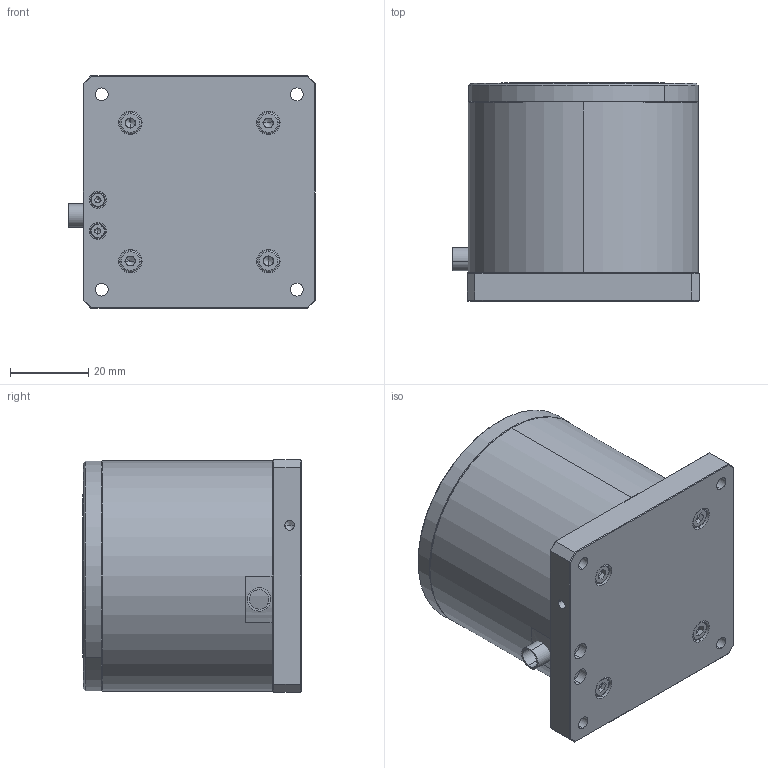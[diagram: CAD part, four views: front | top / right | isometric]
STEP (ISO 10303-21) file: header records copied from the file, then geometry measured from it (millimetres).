
FILE_DESCRIPTION (( 'STEP AP203' ), '1' );
FILE_NAME ('P34.T2S-B2蚾饜极.STEP', '2022-01-18T01:18:56', ( '' ), ( '' ), 'SwSTEP 2.0', 'SolidWorks 2016', '' );
FILE_SCHEMA (( 'CONFIG_CONTROL_DESIGN' ));
Length unit declared in the file: millimetre
Products named in the file (1): P34.T2S-B2蚾饜极
Bounding box: 63.25 x 56 x 59.5 mm (x, y, z)
Volume: 157884.1 mm3; surface area: 32345.1 mm2
Topology: 15 solids, 15 shells, 418 faces, 948 edges, 569 vertices
Faces by surface type: plane 206, cylinder 133, cone 59, torus 20
Entity records: 11626 total; most frequent: DIRECTION 2157, CARTESIAN_POINT 1968, ORIENTED_EDGE 1828, EDGE_CURVE 914, AXIS2_PLACEMENT_3D 828, VERTEX_POINT 569, VECTOR 501, EDGE_LOOP 501
